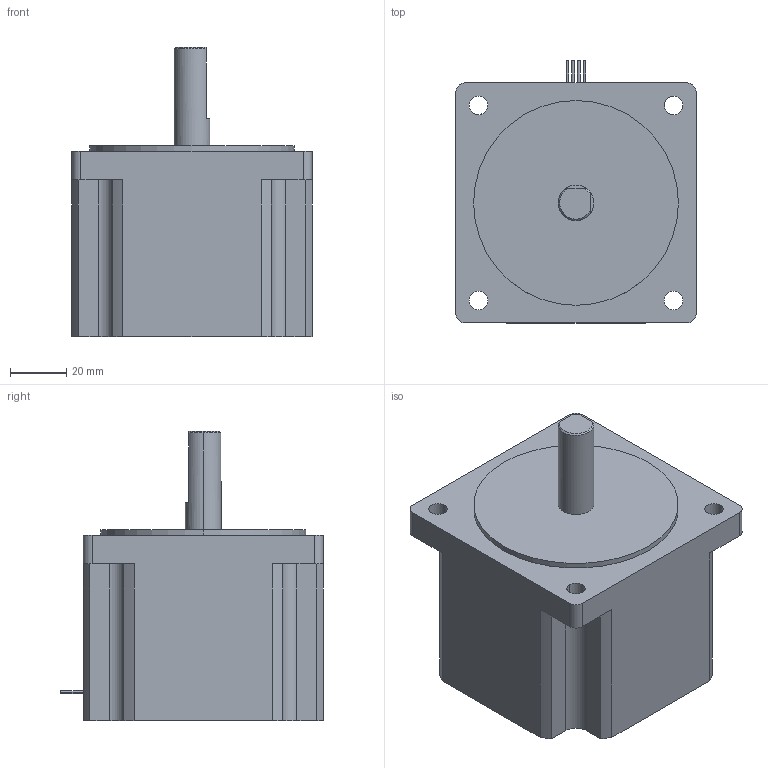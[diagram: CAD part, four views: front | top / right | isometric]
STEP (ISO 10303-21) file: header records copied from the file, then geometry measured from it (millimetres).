
FILE_DESCRIPTION((''),'2;1');
FILE_NAME('C:\Documents and Settings\rbadgerow\Desktop\webmodelmain\web step 3d\8718s\8718s s.stp','2005-05-24T07:37:07',('rbadgerow'),(''),'Autodesk Inventor 9','Autodesk Inventor 9','');
FILE_SCHEMA(('AUTOMOTIVE_DESIGN { 1 0 10303 214 1 1 1 1 }'));
Length unit declared in the file: inch
Products named in the file (1): 8718s s
Bounding box: 85.6 x 93.6 x 103.12 mm (x, y, z)
Volume: 447437.2 mm3; surface area: 38483.8 mm2
Topology: 1 solids, 1 shells, 70 faces, 184 edges, 123 vertices
Faces by surface type: cylinder 38, plane 29, cone 3
Entity records: 2238 total; most frequent: DIRECTION 407, CARTESIAN_POINT 386, ORIENTED_EDGE 368, EDGE_CURVE 184, AXIS2_PLACEMENT_3D 156, VERTEX_POINT 123, VECTOR 95, LINE 95
